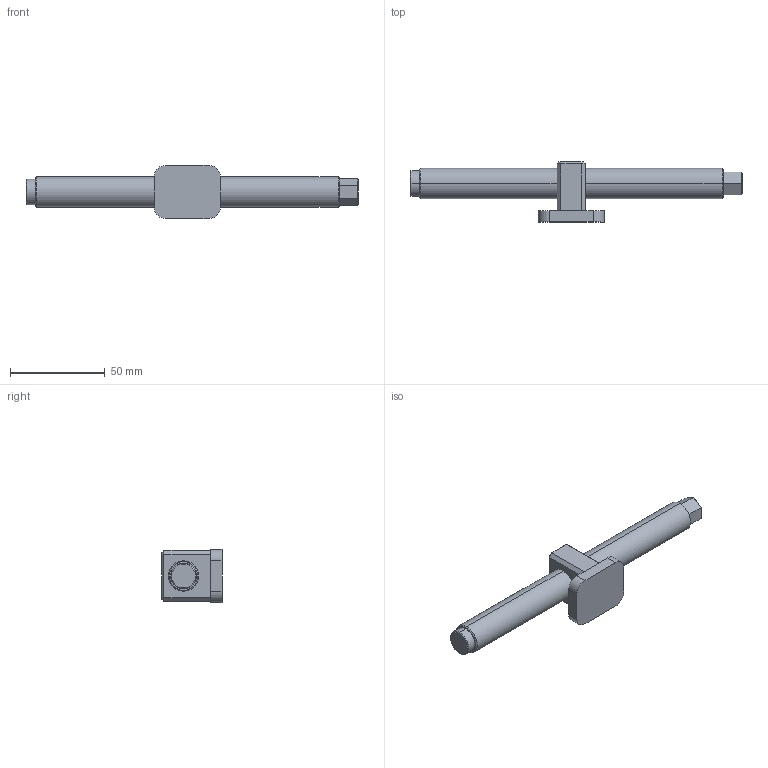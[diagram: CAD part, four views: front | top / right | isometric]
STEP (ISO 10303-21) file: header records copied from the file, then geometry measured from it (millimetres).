
FILE_DESCRIPTION (( 'STEP AP214' ), '1' );
FILE_NAME ('4877175.STEP', '2025-03-20T12:03:04', ( '' ), ( '' ), 'SwSTEP 2.0', 'SolidWorks 2021', '' );
FILE_SCHEMA (( 'AUTOMOTIVE_DESIGN' ));
Length unit declared in the file: millimetre
Products named in the file (1): 4877175
Bounding box: 175 x 31.65 x 28 mm (x, y, z)
Volume: 46714.5 mm3; surface area: 12608.3 mm2
Topology: 1 solids, 1 shells, 68 faces, 154 edges, 94 vertices
Faces by surface type: plane 52, cylinder 10, cone 6
Entity records: 2341 total; most frequent: DIRECTION 318, CARTESIAN_POINT 317, ORIENTED_EDGE 308, EDGE_CURVE 154, LINE 128, VECTOR 128, AXIS2_PLACEMENT_3D 95, VERTEX_POINT 94
